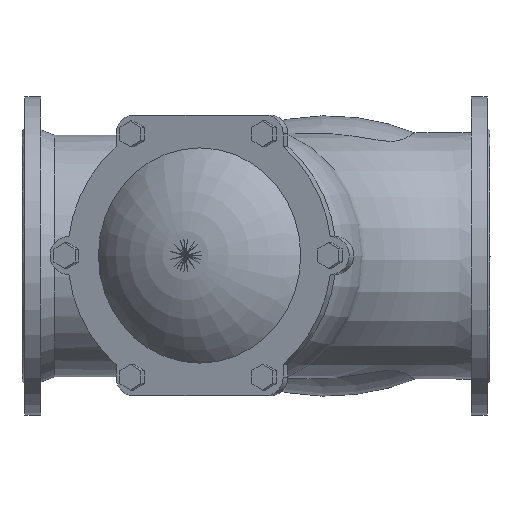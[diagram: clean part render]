
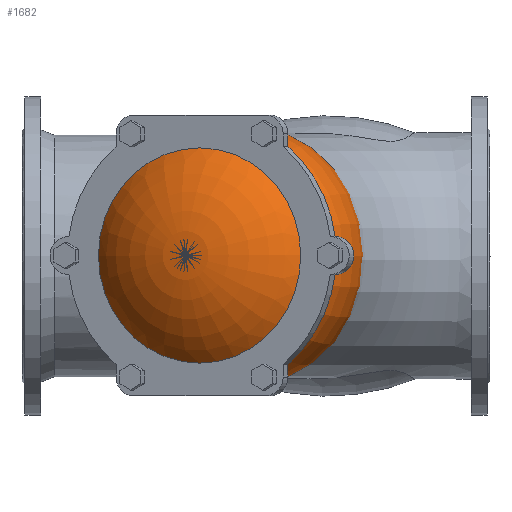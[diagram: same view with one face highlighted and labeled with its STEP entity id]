
A CAD part, top view. The second image highlights one B-rep face of the part: STEP entity #1682.
In plain terms, the highlighted toroidal (fillet/blend) face has major radius 7.686 mm and minor radius 150 mm.
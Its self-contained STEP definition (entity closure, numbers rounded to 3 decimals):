
#1682=ADVANCED_FACE('',(#5982),#5984,.T.);
#5982=FACE_OUTER_BOUND('',#5983,.T.);
#5983=EDGE_LOOP('',(#7362));
#5984=DEGENERATE_TOROIDAL_SURFACE('',#5985,7.686,150.,.T.);
#5985=AXIS2_PLACEMENT_3D('',#5986,#5987,#5988);
#5986=CARTESIAN_POINT('',(-15.434,0.,190.714));
#5987=DIRECTION('',(0.342,0.,-0.94));
#5988=DIRECTION('',(-0.94,0.,-0.342));
#7362=ORIENTED_EDGE('',*,*,#7837,.T.);
#7837=EDGE_CURVE('',#8627,#8627,#8628,.F.);
#8627=VERTEX_POINT('',#12175);
#8628=CIRCLE('',#12176,115.);
#12175=CARTESIAN_POINT('',(-159.343,0.,249.864));
#12176=AXIS2_PLACEMENT_3D('',#12177,#12178,#12179);
#12177=CARTESIAN_POINT('',(-51.278,0.,289.197));
#12178=DIRECTION('',(0.342,0.,-0.94));
#12179=DIRECTION('',(-0.94,0.,-0.342));
